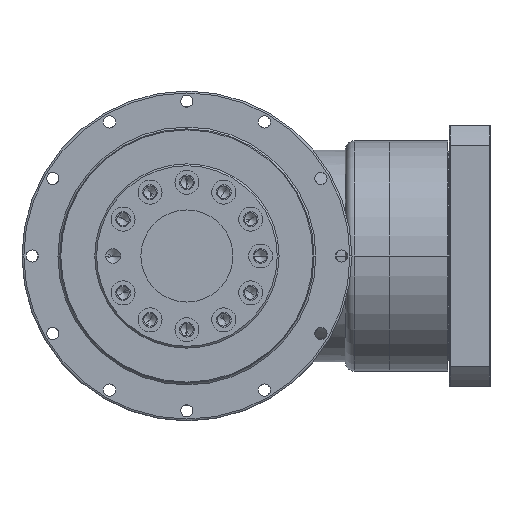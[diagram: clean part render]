
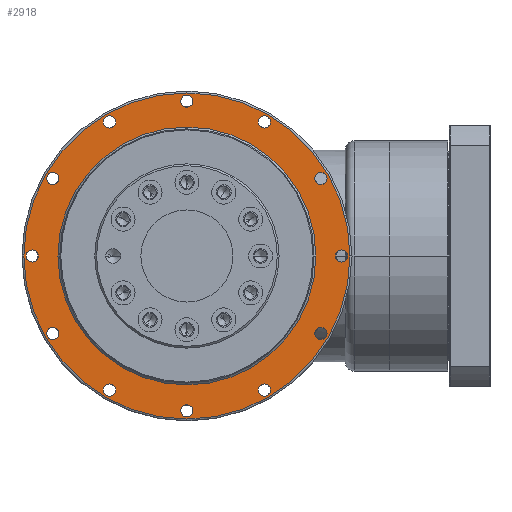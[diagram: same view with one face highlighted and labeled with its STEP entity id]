
A CAD part, left-side view. The second image highlights one B-rep face of the part: STEP entity #2918.
In plain terms, the highlighted planar face has unit normal (-1, 0, 0) as drawn and (1, 0, 0) by its records, which use the part's own axes.
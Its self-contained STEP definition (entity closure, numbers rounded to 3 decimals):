
#83=CARTESIAN_POINT('',(0.,72.746,-42.));
#84=DIRECTION('',(-1.,0.,0.));
#85=DIRECTION('',(0.,-1.,0.));
#86=AXIS2_PLACEMENT_3D('',#83,#84,#85);
#88=CARTESIAN_POINT('',(0.,72.746,-42.));
#89=DIRECTION('',(-1.,0.,0.));
#90=DIRECTION('',(0.,1.,0.));
#91=AXIS2_PLACEMENT_3D('',#88,#89,#90);
#93=CARTESIAN_POINT('',(0.,42.,-72.746));
#94=DIRECTION('',(-1.,0.,0.));
#95=DIRECTION('',(0.,-1.,0.));
#96=AXIS2_PLACEMENT_3D('',#93,#94,#95);
#98=CARTESIAN_POINT('',(0.,42.,-72.746));
#99=DIRECTION('',(-1.,0.,0.));
#100=DIRECTION('',(0.,1.,0.));
#101=AXIS2_PLACEMENT_3D('',#98,#99,#100);
#103=CARTESIAN_POINT('',(0.,0.,-84.));
#104=DIRECTION('',(-1.,0.,0.));
#105=DIRECTION('',(0.,-1.,0.));
#106=AXIS2_PLACEMENT_3D('',#103,#104,#105);
#108=CARTESIAN_POINT('',(0.,0.,-84.));
#109=DIRECTION('',(-1.,0.,0.));
#110=DIRECTION('',(0.,1.,0.));
#111=AXIS2_PLACEMENT_3D('',#108,#109,#110);
#113=CARTESIAN_POINT('',(0.,-42.,-72.746));
#114=DIRECTION('',(-1.,0.,0.));
#115=DIRECTION('',(0.,-1.,0.));
#116=AXIS2_PLACEMENT_3D('',#113,#114,#115);
#118=CARTESIAN_POINT('',(0.,-42.,-72.746));
#119=DIRECTION('',(-1.,0.,0.));
#120=DIRECTION('',(0.,1.,0.));
#121=AXIS2_PLACEMENT_3D('',#118,#119,#120);
#123=CARTESIAN_POINT('',(0.,-72.746,-42.));
#124=DIRECTION('',(-1.,0.,0.));
#125=DIRECTION('',(0.,-1.,0.));
#126=AXIS2_PLACEMENT_3D('',#123,#124,#125);
#128=CARTESIAN_POINT('',(0.,-72.746,-42.));
#129=DIRECTION('',(-1.,0.,0.));
#130=DIRECTION('',(0.,1.,0.));
#131=AXIS2_PLACEMENT_3D('',#128,#129,#130);
#133=CARTESIAN_POINT('',(0.,-84.,0.));
#134=DIRECTION('',(-1.,0.,0.));
#135=DIRECTION('',(0.,-1.,0.));
#136=AXIS2_PLACEMENT_3D('',#133,#134,#135);
#138=CARTESIAN_POINT('',(0.,-84.,0.));
#139=DIRECTION('',(-1.,0.,0.));
#140=DIRECTION('',(0.,1.,0.));
#141=AXIS2_PLACEMENT_3D('',#138,#139,#140);
#143=CARTESIAN_POINT('',(0.,-72.746,42.));
#144=DIRECTION('',(-1.,0.,0.));
#145=DIRECTION('',(0.,-1.,0.));
#146=AXIS2_PLACEMENT_3D('',#143,#144,#145);
#148=CARTESIAN_POINT('',(0.,-72.746,42.));
#149=DIRECTION('',(-1.,0.,0.));
#150=DIRECTION('',(0.,1.,0.));
#151=AXIS2_PLACEMENT_3D('',#148,#149,#150);
#153=CARTESIAN_POINT('',(0.,-42.,72.746));
#154=DIRECTION('',(-1.,0.,0.));
#155=DIRECTION('',(0.,-1.,0.));
#156=AXIS2_PLACEMENT_3D('',#153,#154,#155);
#158=CARTESIAN_POINT('',(0.,-42.,72.746));
#159=DIRECTION('',(-1.,0.,0.));
#160=DIRECTION('',(0.,1.,0.));
#161=AXIS2_PLACEMENT_3D('',#158,#159,#160);
#163=CARTESIAN_POINT('',(0.,0.,84.));
#164=DIRECTION('',(-1.,0.,0.));
#165=DIRECTION('',(0.,-1.,0.));
#166=AXIS2_PLACEMENT_3D('',#163,#164,#165);
#168=CARTESIAN_POINT('',(0.,0.,84.));
#169=DIRECTION('',(-1.,0.,0.));
#170=DIRECTION('',(0.,1.,0.));
#171=AXIS2_PLACEMENT_3D('',#168,#169,#170);
#173=CARTESIAN_POINT('',(0.,42.,72.746));
#174=DIRECTION('',(-1.,0.,0.));
#175=DIRECTION('',(0.,-1.,0.));
#176=AXIS2_PLACEMENT_3D('',#173,#174,#175);
#178=CARTESIAN_POINT('',(0.,42.,72.746));
#179=DIRECTION('',(-1.,0.,0.));
#180=DIRECTION('',(0.,1.,0.));
#181=AXIS2_PLACEMENT_3D('',#178,#179,#180);
#183=CARTESIAN_POINT('',(0.,72.746,42.));
#184=DIRECTION('',(-1.,0.,0.));
#185=DIRECTION('',(0.,-1.,0.));
#186=AXIS2_PLACEMENT_3D('',#183,#184,#185);
#188=CARTESIAN_POINT('',(0.,72.746,42.));
#189=DIRECTION('',(-1.,0.,0.));
#190=DIRECTION('',(0.,1.,0.));
#191=AXIS2_PLACEMENT_3D('',#188,#189,#190);
#193=CARTESIAN_POINT('',(0.,0.,0.));
#194=DIRECTION('',(1.,0.,0.));
#195=DIRECTION('',(0.,1.,0.));
#196=AXIS2_PLACEMENT_3D('',#193,#194,#195);
#198=CARTESIAN_POINT('',(0.,0.,0.));
#199=DIRECTION('',(-1.,0.,0.));
#200=DIRECTION('',(0.,1.,0.));
#201=AXIS2_PLACEMENT_3D('',#198,#199,#200);
#203=CARTESIAN_POINT('',(0.,84.,0.));
#204=DIRECTION('',(-1.,0.,0.));
#205=DIRECTION('',(0.,-1.,0.));
#206=AXIS2_PLACEMENT_3D('',#203,#204,#205);
#208=CARTESIAN_POINT('',(0.,84.,0.));
#209=DIRECTION('',(-1.,0.,0.));
#210=DIRECTION('',(0.,1.,0.));
#211=AXIS2_PLACEMENT_3D('',#208,#209,#210);
#1300=CARTESIAN_POINT('',(0.,0.,0.));
#1301=DIRECTION('',(-1.,0.,0.));
#1302=DIRECTION('',(0.,-1.,0.));
#1303=AXIS2_PLACEMENT_3D('',#1300,#1301,#1302);
#1315=CARTESIAN_POINT('',(0.,0.,0.));
#1316=DIRECTION('',(-1.,0.,0.));
#1317=DIRECTION('',(0.,1.,0.));
#1318=AXIS2_PLACEMENT_3D('',#1315,#1316,#1317);
#2129=CARTESIAN_POINT('',(0.,70.,0.));
#2130=CARTESIAN_POINT('',(0.,-70.,0.));
#2131=VERTEX_POINT('',#2129);
#2132=VERTEX_POINT('',#2130);
#2137=CARTESIAN_POINT('',(0.,80.7,0.));
#2138=CARTESIAN_POINT('',(0.,87.3,0.));
#2139=VERTEX_POINT('',#2137);
#2140=VERTEX_POINT('',#2138);
#2145=CARTESIAN_POINT('',(0.,69.446,42.));
#2146=CARTESIAN_POINT('',(0.,76.046,42.));
#2147=VERTEX_POINT('',#2145);
#2148=VERTEX_POINT('',#2146);
#2153=CARTESIAN_POINT('',(0.,38.7,72.746));
#2154=CARTESIAN_POINT('',(0.,45.3,72.746));
#2155=VERTEX_POINT('',#2153);
#2156=VERTEX_POINT('',#2154);
#2161=CARTESIAN_POINT('',(0.,-3.3,84.));
#2162=CARTESIAN_POINT('',(0.,3.3,84.));
#2163=VERTEX_POINT('',#2161);
#2164=VERTEX_POINT('',#2162);
#2169=CARTESIAN_POINT('',(0.,-45.3,72.746));
#2170=CARTESIAN_POINT('',(0.,-38.7,72.746));
#2171=VERTEX_POINT('',#2169);
#2172=VERTEX_POINT('',#2170);
#2177=CARTESIAN_POINT('',(0.,-76.046,42.));
#2178=CARTESIAN_POINT('',(0.,-69.446,42.));
#2179=VERTEX_POINT('',#2177);
#2180=VERTEX_POINT('',#2178);
#2185=CARTESIAN_POINT('',(0.,-87.3,0.));
#2186=CARTESIAN_POINT('',(0.,-80.7,0.));
#2187=VERTEX_POINT('',#2185);
#2188=VERTEX_POINT('',#2186);
#2193=CARTESIAN_POINT('',(0.,-76.046,-42.));
#2194=CARTESIAN_POINT('',(0.,-69.446,-42.));
#2195=VERTEX_POINT('',#2193);
#2196=VERTEX_POINT('',#2194);
#2201=CARTESIAN_POINT('',(0.,-45.3,-72.746));
#2202=CARTESIAN_POINT('',(0.,-38.7,-72.746));
#2203=VERTEX_POINT('',#2201);
#2204=VERTEX_POINT('',#2202);
#2209=CARTESIAN_POINT('',(0.,-3.3,-84.));
#2210=CARTESIAN_POINT('',(0.,3.3,-84.));
#2211=VERTEX_POINT('',#2209);
#2212=VERTEX_POINT('',#2210);
#2217=CARTESIAN_POINT('',(0.,38.7,-72.746));
#2218=CARTESIAN_POINT('',(0.,45.3,-72.746));
#2219=VERTEX_POINT('',#2217);
#2220=VERTEX_POINT('',#2218);
#2225=CARTESIAN_POINT('',(0.,69.446,-42.));
#2226=CARTESIAN_POINT('',(0.,76.046,-42.));
#2227=VERTEX_POINT('',#2225);
#2228=VERTEX_POINT('',#2226);
#2253=CARTESIAN_POINT('',(0.,-88.5,
0.));
#2254=CARTESIAN_POINT('',(0.,88.5,
0.));
#2255=VERTEX_POINT('',#2253);
#2256=VERTEX_POINT('',#2254);
#2831=CARTESIAN_POINT('',(0.,0.,0.));
#2832=DIRECTION('',(1.,0.,0.));
#2833=DIRECTION('',(0.,-1.,0.));
#2834=AXIS2_PLACEMENT_3D('',#2831,#2832,#2833);
#2835=PLANE('',#2834);
#2837=ORIENTED_EDGE('',*,*,#2836,.T.);
#2839=ORIENTED_EDGE('',*,*,#2838,.T.);
#2840=EDGE_LOOP('',(#2837,#2839));
#2841=FACE_OUTER_BOUND('',#2840,.F.);
#2843=ORIENTED_EDGE('',*,*,#2842,.F.);
#2845=ORIENTED_EDGE('',*,*,#2844,.F.);
#2846=EDGE_LOOP('',(#2843,#2845));
#2847=FACE_BOUND('',#2846,.F.);
#2849=ORIENTED_EDGE('',*,*,#2848,.F.);
#2851=ORIENTED_EDGE('',*,*,#2850,.F.);
#2852=EDGE_LOOP('',(#2849,#2851));
#2853=FACE_BOUND('',#2852,.F.);
#2855=ORIENTED_EDGE('',*,*,#2854,.F.);
#2857=ORIENTED_EDGE('',*,*,#2856,.F.);
#2858=EDGE_LOOP('',(#2855,#2857));
#2859=FACE_BOUND('',#2858,.F.);
#2861=ORIENTED_EDGE('',*,*,#2860,.F.);
#2863=ORIENTED_EDGE('',*,*,#2862,.F.);
#2864=EDGE_LOOP('',(#2861,#2863));
#2865=FACE_BOUND('',#2864,.F.);
#2867=ORIENTED_EDGE('',*,*,#2866,.F.);
#2869=ORIENTED_EDGE('',*,*,#2868,.F.);
#2870=EDGE_LOOP('',(#2867,#2869));
#2871=FACE_BOUND('',#2870,.F.);
#2873=ORIENTED_EDGE('',*,*,#2872,.F.);
#2875=ORIENTED_EDGE('',*,*,#2874,.F.);
#2876=EDGE_LOOP('',(#2873,#2875));
#2877=FACE_BOUND('',#2876,.F.);
#2879=ORIENTED_EDGE('',*,*,#2878,.F.);
#2881=ORIENTED_EDGE('',*,*,#2880,.F.);
#2882=EDGE_LOOP('',(#2879,#2881));
#2883=FACE_BOUND('',#2882,.F.);
#2885=ORIENTED_EDGE('',*,*,#2884,.F.);
#2887=ORIENTED_EDGE('',*,*,#2886,.F.);
#2888=EDGE_LOOP('',(#2885,#2887));
#2889=FACE_BOUND('',#2888,.F.);
#2891=ORIENTED_EDGE('',*,*,#2890,.F.);
#2893=ORIENTED_EDGE('',*,*,#2892,.F.);
#2894=EDGE_LOOP('',(#2891,#2893));
#2895=FACE_BOUND('',#2894,.F.);
#2897=ORIENTED_EDGE('',*,*,#2896,.F.);
#2899=ORIENTED_EDGE('',*,*,#2898,.F.);
#2900=EDGE_LOOP('',(#2897,#2899));
#2901=FACE_BOUND('',#2900,.F.);
#2903=ORIENTED_EDGE('',*,*,#2902,.F.);
#2905=ORIENTED_EDGE('',*,*,#2904,.F.);
#2906=EDGE_LOOP('',(#2903,#2905));
#2907=FACE_BOUND('',#2906,.F.);
#2908=ORIENTED_EDGE('',*,*,#2813,.T.);
#2909=ORIENTED_EDGE('',*,*,#2798,.F.);
#2910=EDGE_LOOP('',(#2908,#2909));
#2911=FACE_BOUND('',#2910,.F.);
#2913=ORIENTED_EDGE('',*,*,#2912,.F.);
#2915=ORIENTED_EDGE('',*,*,#2914,.F.);
#2916=EDGE_LOOP('',(#2913,#2915));
#2917=FACE_BOUND('',#2916,.F.);
#2918=ADVANCED_FACE('',(#2841,#2847,#2853,#2859,#2865,#2871,#2877,#2883,#2889,
#2895,#2901,#2907,#2911,#2917),#2835,.T.);
#87=CIRCLE('',#86,3.3);
#92=CIRCLE('',#91,3.3);
#97=CIRCLE('',#96,3.3);
#102=CIRCLE('',#101,3.3);
#107=CIRCLE('',#106,3.3);
#112=CIRCLE('',#111,3.3);
#117=CIRCLE('',#116,3.3);
#122=CIRCLE('',#121,3.3);
#127=CIRCLE('',#126,3.3);
#132=CIRCLE('',#131,3.3);
#137=CIRCLE('',#136,3.3);
#142=CIRCLE('',#141,3.3);
#147=CIRCLE('',#146,3.3);
#152=CIRCLE('',#151,3.3);
#157=CIRCLE('',#156,3.3);
#162=CIRCLE('',#161,3.3);
#167=CIRCLE('',#166,3.3);
#172=CIRCLE('',#171,3.3);
#177=CIRCLE('',#176,3.3);
#182=CIRCLE('',#181,3.3);
#187=CIRCLE('',#186,3.3);
#192=CIRCLE('',#191,3.3);
#197=CIRCLE('',#196,70.);
#202=CIRCLE('',#201,70.);
#207=CIRCLE('',#206,3.3);
#212=CIRCLE('',#211,3.3);
#1304=CIRCLE('',#1303,88.5);
#1319=CIRCLE('',#1318,88.5);
#2798=EDGE_CURVE('',#2131,#2132,#202,.T.);
#2813=EDGE_CURVE('',#2131,#2132,#197,.T.);
#2836=EDGE_CURVE('',#2255,#2256,#1304,.T.);
#2838=EDGE_CURVE('',#2256,#2255,#1319,.T.);
#2842=EDGE_CURVE('',#2227,#2228,#87,.T.);
#2844=EDGE_CURVE('',#2228,#2227,#92,.T.);
#2848=EDGE_CURVE('',#2219,#2220,#97,.T.);
#2850=EDGE_CURVE('',#2220,#2219,#102,.T.);
#2854=EDGE_CURVE('',#2211,#2212,#107,.T.);
#2856=EDGE_CURVE('',#2212,#2211,#112,.T.);
#2860=EDGE_CURVE('',#2203,#2204,#117,.T.);
#2862=EDGE_CURVE('',#2204,#2203,#122,.T.);
#2866=EDGE_CURVE('',#2195,#2196,#127,.T.);
#2868=EDGE_CURVE('',#2196,#2195,#132,.T.);
#2872=EDGE_CURVE('',#2187,#2188,#137,.T.);
#2874=EDGE_CURVE('',#2188,#2187,#142,.T.);
#2878=EDGE_CURVE('',#2179,#2180,#147,.T.);
#2880=EDGE_CURVE('',#2180,#2179,#152,.T.);
#2884=EDGE_CURVE('',#2171,#2172,#157,.T.);
#2886=EDGE_CURVE('',#2172,#2171,#162,.T.);
#2890=EDGE_CURVE('',#2163,#2164,#167,.T.);
#2892=EDGE_CURVE('',#2164,#2163,#172,.T.);
#2896=EDGE_CURVE('',#2155,#2156,#177,.T.);
#2898=EDGE_CURVE('',#2156,#2155,#182,.T.);
#2902=EDGE_CURVE('',#2147,#2148,#187,.T.);
#2904=EDGE_CURVE('',#2148,#2147,#192,.T.);
#2912=EDGE_CURVE('',#2139,#2140,#207,.T.);
#2914=EDGE_CURVE('',#2140,#2139,#212,.T.);
